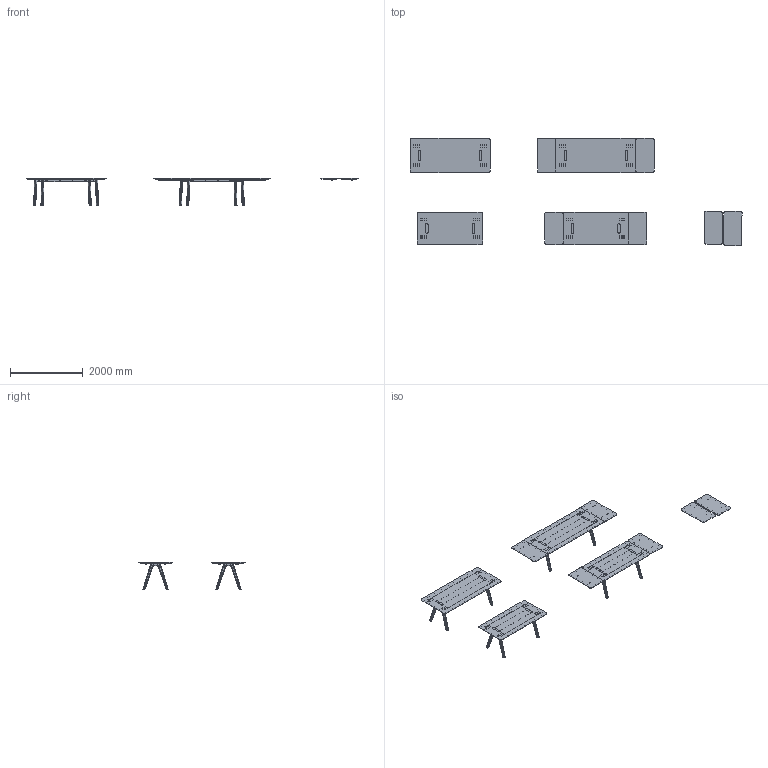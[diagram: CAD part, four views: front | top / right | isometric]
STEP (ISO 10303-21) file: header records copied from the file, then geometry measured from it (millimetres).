
FILE_DESCRIPTION(/* description */ (''),/* implementation_level */ '2;1');
FILE_NAME(/* name */ '240829_Kars Dining tables',/* time_stamp */ '2024-08-29T12:05:53+02:00',/* author */ (''),/* organization */ (''),/* preprocessor_version */ 'ST-DEVELOPER v19.2',/* originating_system */ 'Rhino 8.8',/* authorisation */ '');
FILE_SCHEMA (('CONFIG_CONTROL_DESIGN'));
Products named in the file (1): Document
Bounding box: 9111.5 x 2950 x 750 mm (x, y, z)
Volume: 260441932.2 mm3; surface area: 28706300.1 mm2
Topology: 349 solids, 349 shells, 6738 faces, 16146 edges, 10508 vertices
Faces by surface type: plane 3214, cylinder 2660, bspline 864
Entity records: 222426 total; most frequent: CARTESIAN_POINT 89132, ORIENTED_EDGE 32212, EDGE_CURVE 16106, DIRECTION 15910, AXIS2_PLACEMENT_3D 10884, VERTEX_POINT 10508, B_SPLINE_CURVE_WITH_KNOTS 8400, EDGE_LOOP 7780
